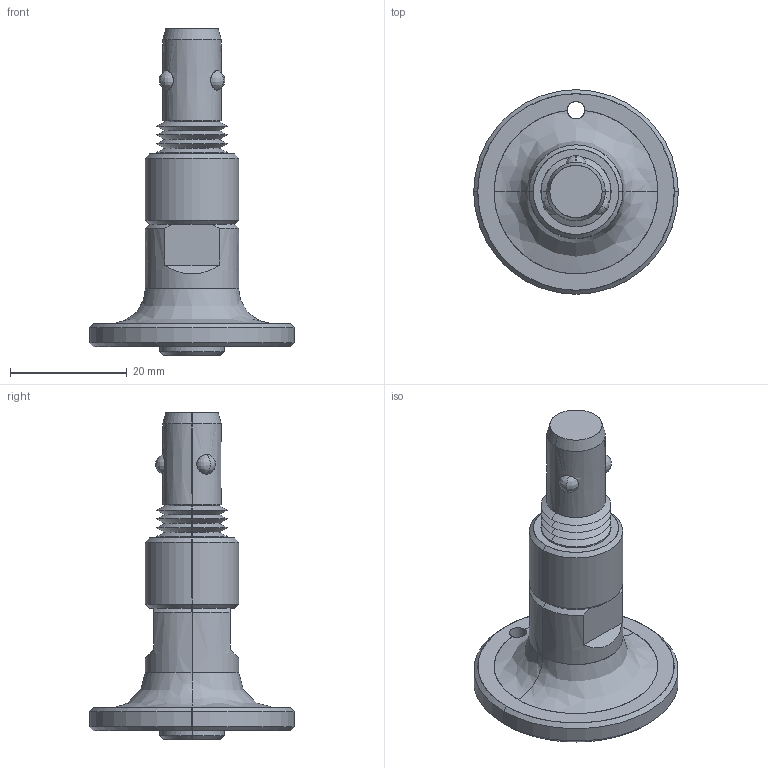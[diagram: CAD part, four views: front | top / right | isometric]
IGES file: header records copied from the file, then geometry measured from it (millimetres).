
Start section: SolidWorks IGES file using analytic representation for surfaces
Global section: file name: C:\Users\IanO\Documents\Temp File\GENERAL\33910_v2\33910_v2_20191021_IGES\33910.W1610.igs; native system: SolidWorks 2017; preprocessor: SolidWorks 2017; author: IanO; date: 191022.090425; units: millimetre
Bounding box: 35 x 35 x 56 mm (x, y, z)
Surface area: 4678.7 mm2 (no closed solid volume)
Topology: 0 solids, 0 shells, 69 faces, 918 edges, 918 vertices
Faces by surface type: revolution 53, bspline 16
